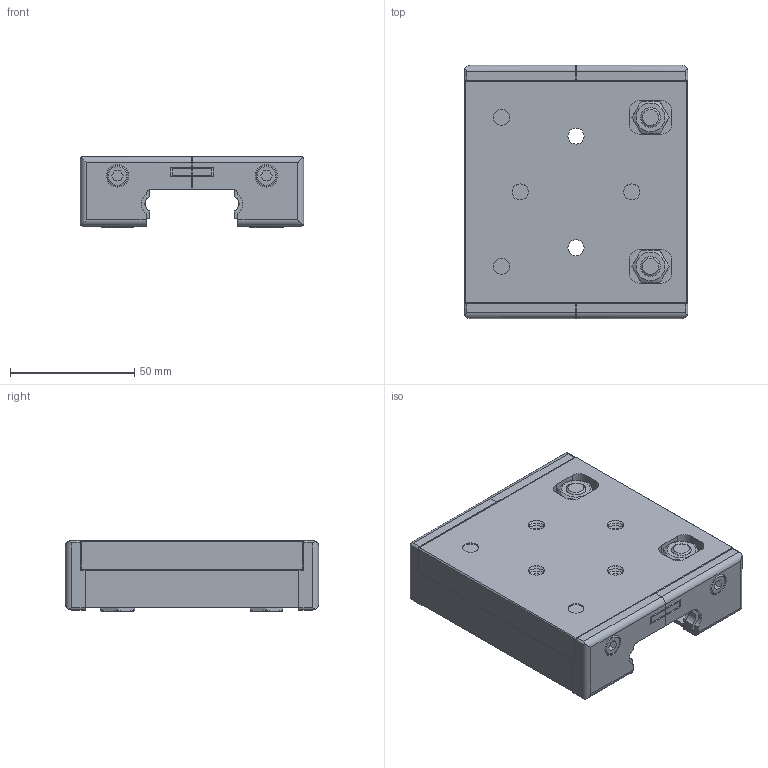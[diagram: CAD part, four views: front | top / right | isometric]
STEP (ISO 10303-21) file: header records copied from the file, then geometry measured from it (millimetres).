
FILE_DESCRIPTION((''),'2;1');
FILE_NAME('C:\Documents and Settings\Administrator\My Documents\Andys Backup Data\ANDY''S INVENTOR\INVENTOR LIBRARIES\MINITEC INVENTOR LIBRARIES\READY FOR USE MODULES LR\A PACKED FILES\STEP FILES\28.0138_1 SLIDE LR 6 WITH COVERS.stp','2010-07-01T12:15:50',('Administrator'),(''),'Autodesk Inventor 2009','Autodesk Inventor 2009','');
FILE_SCHEMA(('CONFIG_CONTROL_DESIGN'));
Length unit declared in the file: millimetre
Products named in the file (9): 28.0138_1 SLIDE LR 6 WITH COVERS; 28.0138 SLIDE LR 6 AL PLATE; M8 ROUND WASHER DIN 125-1; 28.0014 SLIDE LR6 BEARING; 28.0240 SLIDE LR6 CONCENTRIC BUSHING; SET SCREW M5X10 WITH DOG POINT DIN 915; HEX NUT M8 THIN DIN 439-2; 28.0138_1 SLIDE LR6 WITH COVERS END COVER; 28.0138_1 BEARING COVER
Assembly tree (21 placements, depth 2):
  28.0138_1 SLIDE LR 6 WITH COVERS
    28.0138 SLIDE LR 6 AL PLATE
    M8 ROUND WASHER DIN 125-1  x4
    28.0014 SLIDE LR6 BEARING  x4
    28.0240 SLIDE LR6 CONCENTRIC BUSHING  x4
    SET SCREW M5X10 WITH DOG POINT DIN 915  x2
    HEX NUT M8 THIN DIN 439-2  x2
    28.0138_1 SLIDE LR6 WITH COVERS END COVER  x2
    28.0138_1 BEARING COVER  x2
Bounding box: 90 x 102 x 28.6 mm (x, y, z)
Volume: 150617.9 mm3; surface area: 69342 mm2
Topology: 23 solids, 23 shells, 792 faces, 1946 edges, 1212 vertices
Faces by surface type: plane 413, cone 254, cylinder 99, bspline 18, torus 8
Full cylindrical faces by diameter (mm): 3.5 x2, 5 x6, 5.5 x4, 8 x9, 8.4 x4, 8.5 x4, 9 x4, 13 x4, 16 x4, 17 x4, 24 x8
Entity records: 12994 total; most frequent: CARTESIAN_POINT 2570, DIRECTION 2088, ORIENTED_EDGE 1808, EDGE_CURVE 904, AXIS2_PLACEMENT_3D 775, EDGE_LOOP 710, VERTEX_POINT 672, VECTOR 538
